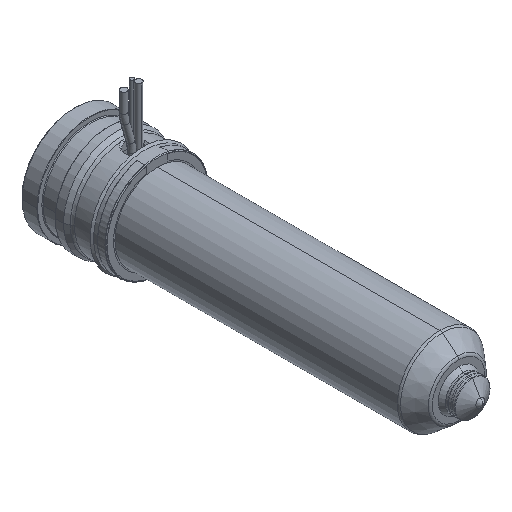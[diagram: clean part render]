
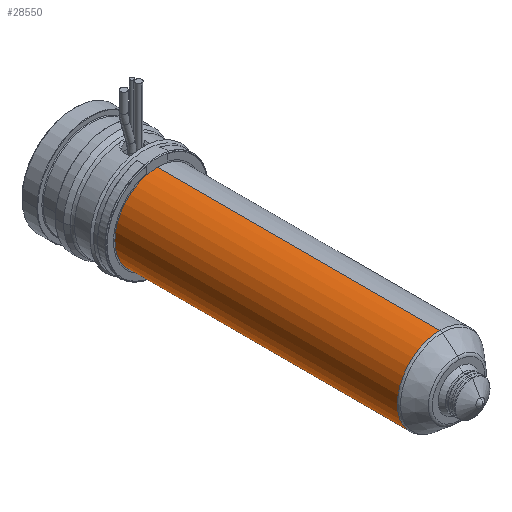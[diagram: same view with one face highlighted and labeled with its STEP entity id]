
A CAD part, isometric view. The second image highlights one B-rep face of the part: STEP entity #28550.
In plain terms, the highlighted cylindrical face has radius 12 mm (diameter 24 mm), a partial arc.
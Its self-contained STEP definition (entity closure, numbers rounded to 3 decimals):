
#28035=CARTESIAN_POINT('',(0.,-24.,0.));
#28036=DIRECTION('',(0.,1.,0.));
#28037=DIRECTION('',(0.,0.,-1.));
#28038=AXIS2_PLACEMENT_3D('',#28035,#28036,#28037);
#28043=DIRECTION('',(0.,1.,0.));
#28044=VECTOR('',#28043,79.736);
#28045=CARTESIAN_POINT('',(0.,-103.736,12.));
#28046=LINE('',#28045,#28044);
#28058=DIRECTION('',(0.,1.,0.));
#28059=VECTOR('',#28058,79.736);
#28060=CARTESIAN_POINT('',(0.,-103.736,-12.));
#28061=LINE('',#28060,#28059);
#28089=CARTESIAN_POINT('',(0.,-103.736,0.));
#28090=DIRECTION('',(0.,-1.,0.));
#28091=DIRECTION('',(0.,0.,1.));
#28092=AXIS2_PLACEMENT_3D('',#28089,#28090,#28091);
#28419=CARTESIAN_POINT('',(0.,-103.736,12.));
#28420=CARTESIAN_POINT('',(0.,-24.,12.));
#28421=VERTEX_POINT('',#28419);
#28422=VERTEX_POINT('',#28420);
#28423=CARTESIAN_POINT('',(0.,-103.736,-12.));
#28424=CARTESIAN_POINT('',(0.,-24.,-12.));
#28425=VERTEX_POINT('',#28423);
#28426=VERTEX_POINT('',#28424);
#28536=CARTESIAN_POINT('',(0.,-15.2,0.));
#28537=DIRECTION('',(0.,-1.,0.));
#28538=DIRECTION('',(0.,0.,1.));
#28539=AXIS2_PLACEMENT_3D('',#28536,#28537,#28538);
#28540=CYLINDRICAL_SURFACE('',#28539,12.);
#28542=ORIENTED_EDGE('',*,*,#28541,.F.);
#28544=ORIENTED_EDGE('',*,*,#28543,.T.);
#28546=ORIENTED_EDGE('',*,*,#28545,.T.);
#28547=ORIENTED_EDGE('',*,*,#28529,.T.);
#28548=EDGE_LOOP('',(#28542,#28544,#28546,#28547));
#28549=FACE_OUTER_BOUND('',#28548,.F.);
#28550=ADVANCED_FACE('',(#28549),#28540,.T.);
#28039=CIRCLE('',#28038,12.);
#28093=CIRCLE('',#28092,12.);
#28529=EDGE_CURVE('',#28426,#28422,#28039,.T.);
#28541=EDGE_CURVE('',#28421,#28422,#28046,.T.);
#28543=EDGE_CURVE('',#28421,#28425,#28093,.T.);
#28545=EDGE_CURVE('',#28425,#28426,#28061,.T.);
